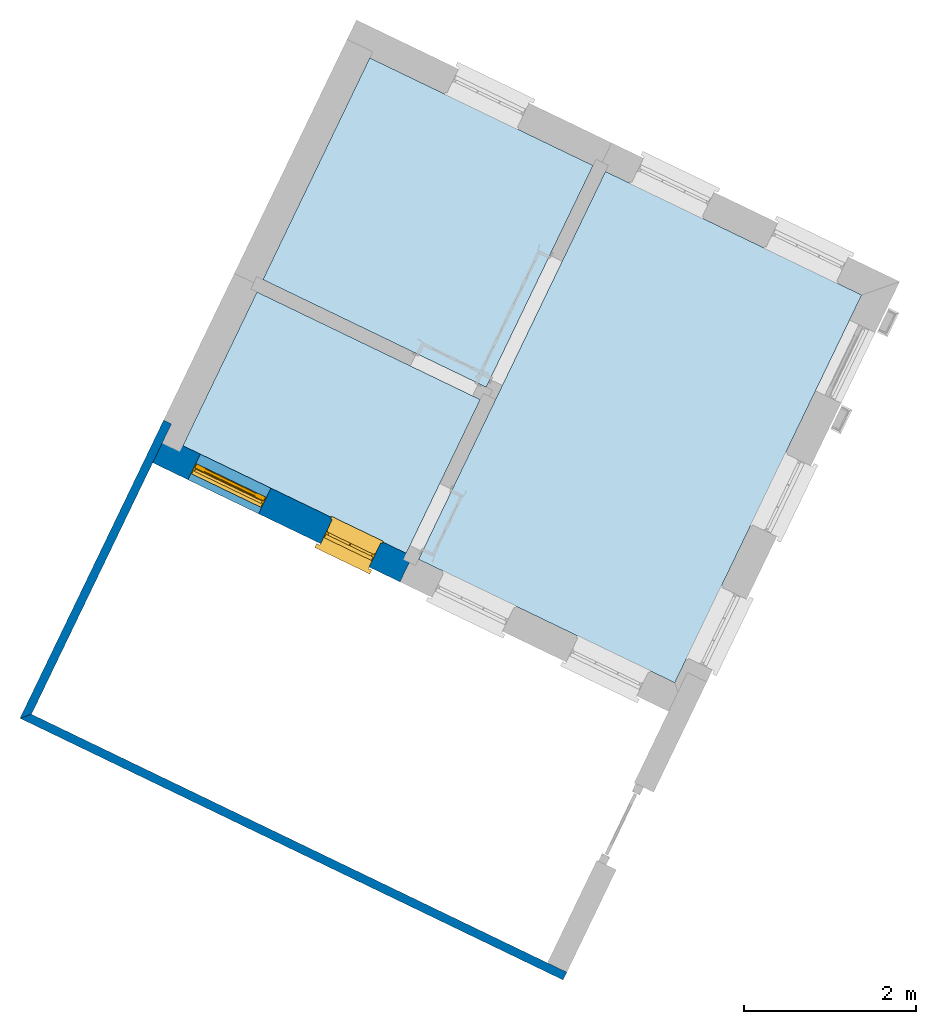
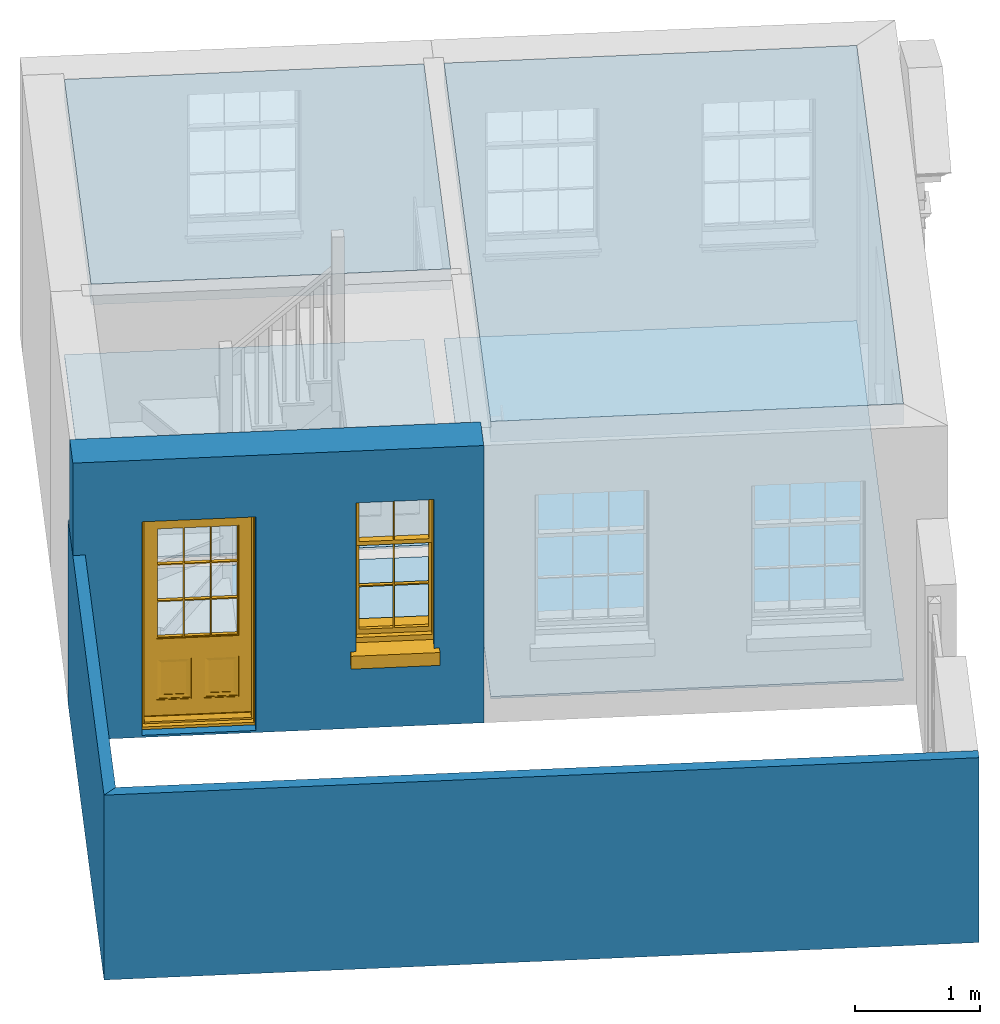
# One storey, part 1 of 5: 5 slabs, 3 walls, 1 door, 1 window, 2 openings.
"""IFC4 building model written with IfcOpenShell, lengths in metres."""

from ifc_helpers import new_model, si_unit, frame, origin, origin_with_axes, place, context, subcontext, project, spatial, polyline, outline, extrude, faceted_brep, source, transform, mapped, material, layer, layer_set, layer_usage, type_object, type_shapes, element, fill, save


model = new_model("IFC4")

# Units and contexts
model_context = context("Model", 3, world=origin_with_axes())
body_context = subcontext(model_context, "Body", "Model", "MODEL_VIEW")
ifc_project = project(units=[si_unit("PLANEANGLEUNIT", "RADIAN"), si_unit("MASSUNIT", "GRAM", prefix="KILO"), si_unit("FORCEUNIT", "NEWTON", prefix="KILO"), si_unit("LENGTHUNIT", "METRE"), si_unit("AREAUNIT", "SQUARE_METRE"), si_unit("VOLUMEUNIT", "CUBIC_METRE")], contexts=[model_context, model_context])

# Sites, building, storey
site_1_placement = place(None, origin_with_axes())
site_1 = spatial("IfcSite", under=ifc_project, at=site_1_placement, Name="Tamar")
site_2_placement = place(site_1_placement, origin_with_axes())
site_2 = spatial("IfcSite", under=site_1, at=site_2_placement, Name="Site plot-2", CompositionType="ELEMENT")
building_placement = place(None, origin_with_axes())
building = spatial("IfcBuilding", under=site_2, at=building_placement, Name="Building plot-2", CompositionType="ELEMENT")
storey_placement = place(None, frame((0.0, 0.0, 26.0), z_axis=(0.0, 0.0, 1.0), x_axis=(1.0, 0.0, 0.0)))
storey = spatial("IfcBuildingStorey", under=building, at=storey_placement, Name="plot-2 0", CompositionType="ELEMENT", Elevation=26.0)

# Slabs
slab_1_placement = place(storey_placement, frame((229.993782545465, 295.848818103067, 2.5)))
element("IfcSlab", 1, at=slab_1_placement, inside=storey, Name="My Slab", ObjectType="Slab", PredefinedType="FLOOR", context=body_context, shape_type="SweptSolid", body=[
    extrude(outline(polyline([(0.0, 0.0), (-1.24025928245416, -2.57371723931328), (1.35209378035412, -3.82295701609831), (2.59235306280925, -1.24923977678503), (0.0, 0.0)])), origin_with_axes(), (0.0, 0.0, 1.0), 0.2),
])
slab_2_placement = place(storey_placement, frame((229.993782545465, 295.848818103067, 0.0)))
element("IfcSlab", 2, at=slab_2_placement, inside=storey, Name="My Slab", ObjectType="Slab", PredefinedType="FLOOR", context=body_context, shape_type="SweptSolid", body=[
    extrude(outline(polyline([(0.0, 0.0), (-1.24025928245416, -2.57371723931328), (1.35209378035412, -3.82295701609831), (2.59235306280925, -1.24923977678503), (0.0, 0.0)])), origin_with_axes(), (0.0, 0.0, 1.0), 0.02),
])
slab_3_placement = place(storey_placement, frame((230.416383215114, 290.097028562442, 0.0)))
element("IfcSlab", 3, at=slab_3_placement, inside=storey, Name="My Slab", ObjectType="Slab", PredefinedType="FLOOR", context=body_context, shape_type="SweptSolid", body=[
    extrude(outline(polyline([(0.0, 0.0), (0.860034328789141, 1.78469551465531), (-1.7323187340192, 3.0339352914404), (-2.59235306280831, 1.24923977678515), (0.0, 0.0)])), origin_with_axes(), (0.0, 0.0, 1.0), 0.02),
])
slab_4_placement = place(storey_placement, frame((235.705211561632, 293.09651386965, 2.5)))
element("IfcSlab", 4, at=slab_4_placement, inside=storey, Name="My Slab", ObjectType="Slab", PredefinedType="FLOOR", context=body_context, shape_type="SweptSolid", body=[
    extrude(outline(polyline([(0.0, 0.0), (-2.97493894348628, 1.43360567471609), (-5.1446913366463, -3.0689440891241), (-2.16975239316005, -4.50254976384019), (0.0, 0.0)])), origin_with_axes(), (0.0, 0.0, 1.0), 0.2),
])
slab_5_placement = place(storey_placement, frame((235.705211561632, 293.09651386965, 0.0)))
element("IfcSlab", 5, at=slab_5_placement, inside=storey, Name="My Slab", ObjectType="Slab", PredefinedType="FLOOR", context=body_context, shape_type="SweptSolid", body=[
    extrude(outline(polyline([(0.0, 0.0), (-2.97493894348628, 1.43360567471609), (-5.1446913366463, -3.0689440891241), (-2.16975239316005, -4.50254976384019), (0.0, 0.0)])), origin_with_axes(), (0.0, 0.0, 1.0), 0.02),
])

# Wall, openings, door, window
ifc_material_1 = material(Name="Masonry")
ifc_layer_1 = layer(ifc_material_1, 0.33, ventilated=False)
ifc_layer_set_1 = layer_set([ifc_layer_1], Name="exterior_0.08_0.25")
ifc_layer_usage_1 = layer_usage(ifc_layer_set_1, "AXIS2", "POSITIVE", -0.25)
wall_type_1 = type_object("IfcWallType", Name="exterior_0.08_0.25", PredefinedType="SOLIDWALL", material=ifc_layer_set_1)
wall_1_placement = place(storey_placement, frame((227.717232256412, 291.308929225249, 0.0), z_axis=(0.0, 0.0, 1.0), x_axis=(0.900856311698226, -0.434117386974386, 0.0)))
wall_1 = element("IfcWall", 6, at=wall_1_placement, inside=storey, type_object=wall_type_1, material=ifc_layer_usage_1, Name="exterior", context=body_context, shape_type="SweptSolid", body=[
    extrude(outline(polyline([(-0.250000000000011, 0.0800000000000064), (-0.250000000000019, -0.250000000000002), (3.03765432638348, -0.249999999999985), (3.03765432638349, 0.0800000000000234), (-0.250000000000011, 0.0800000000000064)])), origin_with_axes(), (0.0, 0.0, 1.0), 2.7),
])
opening_1_placement = place(wall_1_placement, frame((0.304413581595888, 0.0, 0.0199999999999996)))
opening_1 = element("IfcOpeningElement", 7, at=opening_1_placement, cuts=wall_1, Name="My Opening", ObjectType="Opening", context=body_context, shape_type="SweptSolid", body=[
    extrude(outline(polyline([(0.0, -0.269999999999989), (0.909999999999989, -0.27), (0.909999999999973, 1.10000000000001), (-1.60982338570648e-14, 1.10000000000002), (0.0, -0.269999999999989)])), origin_with_axes(), (0.0, 0.0, 1.0), 2.08),
])
opening_2_placement = place(wall_1_placement, frame((2.01441358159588, 0.0, 0.75)))
opening_2 = element("IfcOpeningElement", 8, at=opening_2_placement, cuts=wall_1, Name="My Opening", ObjectType="Opening", context=body_context, shape_type="SweptSolid", body=[
    extrude(outline(polyline([(0.0, -0.269999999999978), (0.625000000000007, -0.269999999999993), (0.624999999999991, 1.10000000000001), (-1.64313007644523e-14, 1.10000000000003), (0.0, -0.269999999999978)])), origin_with_axes(), (0.0, 0.0, 1.0), 1.445),
])
door_type = type_object("IfcDoorType", Name="door_panelled", OperationType="SINGLE_SWING_LEFT", PredefinedType="NOTDEFINED")
shared_shape_1 = source(origin(), body_context, "Body", "Brep", [
    faceted_brep([(0.545, 0.195, 0.265), (0.745, 0.195, 0.265), (0.745, 0.2, 0.265), (0.545, 0.2, 0.265), (0.745, 0.2, 0.58), (0.545, 0.2, 0.58), (0.545, 0.195, 0.58), (0.515, 0.19, 0.235), (0.775, 0.19, 0.235), (0.745, 0.195, 0.58), (0.515, 0.19, 0.61), (0.515, 0.185, 0.235), (0.775, 0.185, 0.235), (0.775, 0.19, 0.61), (0.515, 0.185, 0.61), (0.785, 0.185, 0.225), (0.505, 0.185, 0.225), (0.775, 0.185, 0.61), (0.505, 0.185, 0.62), (0.785, 0.185, 0.62), (0.505, 0.18, 0.225), (0.785, 0.18, 0.225), (0.505, 0.18, 0.62), (0.785, 0.18, 0.62), (0.883, 0.18, 0.075), (0.898, 0.18, 0.075), (0.405, 0.18, 0.62), (0.405, 0.18, 0.225), (0.027, 0.18, 0.075), (0.785, 0.18, 0.82), (0.125, 0.18, 0.82), (0.405, 0.185, 0.62), (0.405, 0.185, 0.225), (0.898, 0.18, 2.068), (0.027, 0.17, 0.075), (0.883, 0.17, 0.075), (0.125, 0.18, 0.225), (0.012, 0.18, 0.075), (0.785, 0.19, 0.82), (0.125, 0.19, 0.82), (0.125, 0.18, 0.62), (0.125, 0.185, 0.62), (0.395, 0.185, 0.61), (0.395, 0.185, 0.235), (0.125, 0.185, 0.225), (0.785, 0.18, 1.895), (0.027, 0.14, 0.045), (0.883, 0.14, 0.045), (0.558333, 0.19, 0.83), (0.351667, 0.19, 0.83), (0.125, 0.18, 1.895), (0.125, 0.19, 1.895), (0.785, 0.19, 1.895), (0.012, 0.18, 2.068), (0.135, 0.185, 0.61), (0.395, 0.19, 0.61), (0.395, 0.19, 0.235), (0.135, 0.185, 0.235), (0.027, 0.14, 0.027), (0.883, 0.14, 0.027), (0.568333, 0.19, 0.83), (0.558333, 0.22, 0.83), (0.351667, 0.22, 0.83), (0.341667, 0.19, 0.83), (0.135, 0.19, 1.185), (0.135, 0.19, 1.53), (0.775, 0.19, 1.53), (0.775, 0.19, 1.185), (0.135, 0.19, 0.61), (0.365, 0.195, 0.58), (0.365, 0.195, 0.265), (0.135, 0.19, 0.235), (0.568333, 0.19, 1.175), (0.558333, 0.19, 1.175), (0.775, 0.19, 0.83), (0.558333, 0.22, 1.175), (0.785, 0.22, 0.82), (0.125, 0.22, 0.82), (0.351667, 0.22, 1.175), (0.351667, 0.19, 1.175), (0.341667, 0.19, 1.175), (0.135, 0.19, 0.83), (0.135, 0.19, 1.175), (0.135, 0.22, 1.185), (0.135, 0.22, 1.53), (0.135, 0.19, 1.54), (0.351667, 0.19, 1.885), (0.558333, 0.19, 1.885), (0.775, 0.22, 1.53), (0.775, 0.22, 1.185), (0.775, 0.19, 1.175), (0.775, 0.19, 1.54), (0.165, 0.195, 0.58), (0.365, 0.2, 0.58), (0.365, 0.2, 0.265), (0.165, 0.195, 0.265), (0.568333, 0.22, 0.83), (0.568333, 0.22, 1.175), (0.568333, 0.19, 1.185), (0.558333, 0.19, 1.185), (0.775, 0.22, 0.83), (0.785, 0.23, 0.82), (0.125, 0.23, 0.82), (0.341667, 0.22, 0.83), (0.341667, 0.22, 1.175), (0.351667, 0.19, 1.185), (0.341667, 0.19, 1.185), (0.135, 0.22, 0.83), (0.341667, 0.22, 1.185), (0.125, 0.22, 1.895), (0.341667, 0.22, 1.53), (0.341667, 0.19, 1.53), (0.135, 0.19, 1.885), (0.341667, 0.19, 1.54), (0.341667, 0.19, 1.885), (0.558333, 0.22, 1.885), (0.351667, 0.22, 1.885), (0.568333, 0.19, 1.885), (0.785, 0.22, 1.895), (0.568333, 0.22, 1.185), (0.568333, 0.19, 1.53), (0.568333, 0.22, 1.53), (0.568333, 0.19, 1.54), (0.775, 0.19, 1.885), (0.165, 0.2, 0.58), (0.165, 0.2, 0.265), (0.775, 0.22, 1.175), (0.558333, 0.19, 1.53), (0.351667, 0.22, 1.185), (0.558333, 0.22, 1.185), (0.505, 0.23, 0.62), (0.405, 0.23, 0.62), (0.125, 0.23, 1.895), (0.785, 0.23, 1.895), (0.351667, 0.19, 1.53), (0.135, 0.22, 1.175), (0.135, 0.22, 1.54), (0.341667, 0.22, 1.54), (0.135, 0.22, 1.885), (0.351667, 0.19, 1.54), (0.558333, 0.22, 1.54), (0.558333, 0.19, 1.54), (0.351667, 0.22, 1.54), (0.775, 0.22, 1.54), (0.568333, 0.22, 1.54), (0.775, 0.22, 1.885), (0.558333, 0.22, 1.53), (0.405, 0.23, 0.225), (0.505, 0.23, 0.225), (0.125, 0.23, 0.62), (0.785, 0.23, 0.62), (0.012, 0.23, 2.068), (0.898, 0.23, 2.068), (0.351667, 0.22, 1.53), (0.341667, 0.22, 1.885), (0.568333, 0.22, 1.885), (0.405, 0.225, 0.225), (0.405, 0.225, 0.62), (0.505, 0.225, 0.62), (0.505, 0.225, 0.225), (0.898, 0.23, 0.027), (0.012, 0.23, 0.027), (0.125, 0.225, 0.62), (0.785, 0.225, 0.62), (0.395, 0.225, 0.235), (0.395, 0.225, 0.61), (0.125, 0.23, 0.225), (0.125, 0.225, 0.225), (0.515, 0.225, 0.61), (0.515, 0.225, 0.235), (0.785, 0.23, 0.225), (0.785, 0.225, 0.225), (0.135, 0.225, 0.61), (0.775, 0.225, 0.61), (0.135, 0.225, 0.235), (0.395, 0.22, 0.235), (0.395, 0.22, 0.61), (0.515, 0.22, 0.61), (0.515, 0.22, 0.235), (0.775, 0.225, 0.235), (0.135, 0.22, 0.61), (0.775, 0.22, 0.61), (0.135, 0.22, 0.235), (0.365, 0.215, 0.265), (0.365, 0.215, 0.58), (0.545, 0.215, 0.58), (0.545, 0.215, 0.265), (0.775, 0.22, 0.235), (0.165, 0.215, 0.58), (0.745, 0.215, 0.58), (0.165, 0.215, 0.265), (0.365, 0.21, 0.58), (0.365, 0.21, 0.265), (0.545, 0.21, 0.58), (0.545, 0.21, 0.265), (0.745, 0.215, 0.265), (0.165, 0.21, 0.58), (0.745, 0.21, 0.58), (0.165, 0.21, 0.265), (0.745, 0.21, 0.265), (0.885, 0.178, 0.025), (0.025, 0.178, 0.025), (0.025, 0.15, 0.025), (0.885, 0.15, 0.025), (0.9, 0.23, 0.025), (0.01, 0.23, 0.025), (0.9, 0.178, 0.025), (0.91, 0.23, 0.0), (0.0, 0.23, 0.0), (0.01, 0.178, 0.025), (0.9, 0.178, 2.07), (0.9, 0.23, 2.07), (0.885, 0.178, 2.055), (0.91, 0.23, 2.08), (0.01, 0.23, 2.07), (0.0, 0.23, 2.08), (0.01, 0.178, 2.07), (0.025, 0.178, 2.055), (0.0, 0.1, 2.08), (0.91, 0.1, 2.08), (0.01, 0.1, 2.07), (0.9, 0.1, 2.07), (0.01, 0.15, 2.07), (0.9, 0.15, 2.07), (0.0, 0.1, 0.0), (0.91, 0.1, 0.0), (0.01, 0.1, 0.025), (0.9, 0.1, 0.025), (0.01, 0.15, 0.025), (0.025, 0.15, 2.055), (0.9, 0.15, 0.025), (0.885, 0.15, 2.055), (0.898, 0.18, 0.027), (0.012, 0.18, 0.027), (0.883, 0.18, 0.027), (0.027, 0.18, 0.027)], [[[0, 1, 2, 3]], [[2, 4, 5, 3]], [[0, 3, 5, 6]], [[1, 0, 7, 8]], [[9, 4, 2, 1]], [[9, 6, 5, 4]], [[0, 6, 10, 7]], [[8, 7, 11, 12]], [[8, 13, 9, 1]], [[13, 10, 6, 9]], [[7, 10, 14, 11]], [[15, 12, 11, 16]], [[12, 17, 13, 8]], [[17, 14, 10, 13]], [[18, 16, 11, 14]], [[15, 19, 17, 12]], [[15, 16, 20, 21]], [[14, 17, 19, 18]], [[16, 18, 22, 20]], [[21, 23, 19, 15]], [[24, 25, 21, 20]], [[23, 22, 18, 19]], [[20, 22, 26, 27]], [[23, 21, 25]], [[28, 24, 20, 27]], [[22, 23, 29]], [[29, 30, 26, 22]], [[27, 26, 31, 32]], [[23, 25, 33, 29]], [[34, 35, 24, 28]], [[28, 27, 36, 37]], [[38, 39, 30, 29]], [[26, 30, 40]], [[26, 40, 41, 31]], [[42, 43, 32, 31]], [[32, 44, 36, 27]], [[33, 45, 29]], [[46, 47, 35, 34]], [[36, 40, 37]], [[39, 38, 48, 49]], [[50, 30, 39, 51]], [[29, 45, 52, 38]], [[53, 37, 40, 30]], [[44, 41, 40, 36]], [[31, 41, 54, 42]], [[43, 42, 55, 56]], [[57, 44, 32, 43]], [[50, 45, 33, 53]], [[47, 46, 58, 59]], [[60, 48, 38]], [[49, 48, 61, 62]], [[49, 63, 39]], [[50, 53, 30]], [[51, 39, 64, 65]], [[45, 50, 51, 52]], [[66, 67, 38, 52]], [[57, 54, 41, 44]], [[42, 54, 68, 55]], [[56, 55, 69, 70]], [[56, 71, 57, 43]], [[60, 72, 73, 48]], [[60, 38, 74]], [[48, 73, 75, 61]], [[76, 77, 62, 61]], [[62, 78, 79, 49]], [[49, 79, 80, 63]], [[63, 81, 39]], [[82, 64, 39]], [[65, 64, 83, 84]], [[85, 51, 65]], [[52, 51, 86, 87]], [[88, 89, 67, 66]], [[90, 38, 67]], [[91, 66, 52]], [[71, 68, 54, 57]], [[55, 68, 92, 69]], [[69, 93, 94, 70]], [[70, 95, 71, 56]], [[96, 97, 72, 60]], [[73, 72, 98, 99]], [[74, 38, 90]], [[100, 96, 60, 74]], [[75, 73, 79, 78]], [[61, 75, 97, 96]], [[101, 102, 77, 76]], [[77, 103, 62]], [[96, 76, 61]], [[103, 104, 78, 62]], [[80, 79, 105, 106]], [[63, 80, 104, 103]], [[81, 63, 103, 107]], [[81, 82, 39]], [[106, 64, 82, 80]], [[106, 108, 83, 64]], [[84, 83, 77, 109]], [[110, 111, 65, 84]], [[112, 51, 85]], [[113, 85, 65, 111]], [[114, 86, 51]], [[115, 87, 86, 116]], [[117, 52, 87]], [[118, 76, 89, 88]], [[119, 98, 67, 89]], [[120, 121, 88, 66]], [[67, 98, 72, 90]], [[91, 122, 120, 66]], [[91, 52, 123]], [[95, 92, 68, 71]], [[69, 92, 124, 93]], [[94, 93, 124, 125]], [[94, 125, 95, 70]], [[72, 97, 126, 90]], [[127, 99, 98, 120]], [[99, 105, 79, 73]], [[74, 90, 126, 100]], [[96, 100, 76]], [[128, 129, 75, 78]], [[97, 75, 129, 119]], [[130, 131, 102, 101]], [[109, 77, 102, 132]], [[133, 101, 76, 118]], [[77, 107, 103]], [[78, 104, 108, 128]], [[111, 106, 105, 134]], [[104, 80, 82, 135]], [[107, 135, 82, 81]], [[110, 108, 106, 111]], [[104, 135, 83, 108]], [[83, 135, 77]], [[136, 84, 109]], [[110, 84, 136, 137]], [[114, 51, 112]], [[85, 136, 138, 112]], [[113, 137, 136, 85]], [[111, 134, 139, 113]], [[86, 114, 113, 139]], [[140, 141, 87, 115]], [[139, 142, 116, 86]], [[109, 118, 115, 116]], [[117, 123, 52]], [[117, 87, 141, 122]], [[126, 89, 76]], [[143, 118, 88]], [[120, 98, 119, 121]], [[119, 89, 126, 97]], [[144, 143, 88, 121]], [[144, 122, 91, 143]], [[127, 120, 122, 141]], [[143, 91, 123, 145]], [[124, 92, 95, 125]], [[146, 129, 99, 127]], [[99, 129, 128, 105]], [[100, 126, 76]], [[121, 119, 129, 146]], [[147, 131, 130, 148]], [[131, 149, 102]], [[130, 101, 150]], [[102, 151, 132]], [[118, 109, 132, 133]], [[101, 133, 152]], [[107, 77, 135]], [[153, 128, 108, 110]], [[134, 105, 128, 153]], [[109, 138, 136]], [[153, 110, 137, 142]], [[154, 114, 112, 138]], [[137, 113, 114, 154]], [[141, 139, 134, 127]], [[141, 140, 142, 139]], [[144, 140, 115, 155]], [[142, 137, 154, 116]], [[155, 115, 118]], [[116, 154, 109]], [[117, 155, 145, 123]], [[122, 144, 155, 117]], [[143, 145, 118]], [[121, 146, 140, 144]], [[146, 127, 134, 153]], [[156, 157, 131, 147]], [[148, 130, 158, 159]], [[148, 160, 161, 147]], [[157, 162, 149, 131]], [[161, 151, 102, 149]], [[101, 152, 160, 150]], [[163, 158, 130, 150]], [[151, 152, 133, 132]], [[154, 138, 109]], [[142, 140, 146, 153]], [[145, 155, 118]], [[157, 156, 164, 165]], [[147, 166, 167, 156]], [[168, 169, 159, 158]], [[170, 148, 159, 171]], [[148, 170, 160]], [[166, 147, 161]], [[172, 162, 157, 165]], [[166, 149, 162, 167]], [[166, 161, 149]], [[150, 160, 170]], [[163, 173, 168, 158]], [[171, 163, 150, 170]], [[174, 164, 156, 167]], [[175, 176, 165, 164]], [[169, 168, 177, 178]], [[171, 159, 169, 179]], [[167, 162, 172, 174]], [[176, 180, 172, 165]], [[179, 173, 163, 171]], [[181, 177, 168, 173]], [[164, 174, 182, 175]], [[183, 184, 176, 175]], [[178, 177, 185, 186]], [[179, 169, 178, 187]], [[174, 172, 180, 182]], [[184, 188, 180, 176]], [[187, 181, 173, 179]], [[189, 185, 177, 181]], [[175, 182, 190, 183]], [[191, 184, 183, 192]], [[185, 193, 194, 186]], [[187, 178, 186, 195]], [[182, 180, 188, 190]], [[191, 196, 188, 184]], [[195, 189, 181, 187]], [[197, 193, 185, 189]], [[183, 190, 198, 192]], [[198, 196, 191, 192]], [[194, 193, 197, 199]], [[195, 186, 194, 199]], [[188, 196, 198, 190]], [[197, 189, 195, 199]], [[200, 201, 202, 203]], [[201, 200, 204, 205]], [[206, 204, 200]], [[204, 207, 208, 205]], [[209, 201, 205]], [[210, 211, 204, 206]], [[206, 200, 212, 210]], [[211, 213, 207, 204]], [[214, 205, 208, 215]], [[216, 217, 201, 209]], [[205, 214, 216, 209]], [[216, 214, 211, 210]], [[210, 212, 217, 216]], [[214, 215, 213, 211]], [[218, 219, 213, 215]], [[219, 218, 220, 221]], [[221, 220, 222, 223]], [[215, 208, 224, 218]], [[225, 224, 208, 207]], [[224, 226, 220, 218]], [[224, 225, 227, 226]], [[219, 225, 207, 213]], [[228, 222, 220, 226]], [[219, 221, 227, 225]], [[226, 227, 203, 202]], [[202, 229, 222, 228]], [[228, 226, 202]], [[227, 221, 223, 230]], [[230, 203, 227]], [[217, 229, 202, 201]], [[231, 223, 222, 229]], [[230, 223, 231, 203]], [[231, 229, 217, 212]], [[212, 200, 203, 231]], [[33, 152, 151, 53]], [[25, 160, 152, 33]], [[161, 37, 53, 151]], [[232, 160, 25]], [[161, 233, 37]], [[160, 232, 234]], [[24, 234, 232, 25]], [[233, 161, 235]], [[37, 233, 235, 28]], [[161, 160, 234, 235]], [[35, 47, 234, 24]], [[28, 235, 46, 34]], [[58, 235, 234, 59]], [[59, 234, 47]], [[58, 46, 235]]]),
])
type_shapes(door_type, [shared_shape_1])
door_placement = place(storey_placement, frame((227.874253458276, 290.933546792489, 0.0199999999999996), z_axis=(0.0, 0.0, 1.0), x_axis=(0.819779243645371, -0.395046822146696, 0.0)))
door = element("IfcDoor", 9, at=door_placement, inside=storey, type_object=door_type, Name="circulation sahn door", OverallHeight=2.08, OverallWidth=0.91, context=body_context, shape_type="MappedRepresentation", body=[
    mapped(shared_shape_1, transform((0.0, 0.0, 0.0), scale=1.0)),
])
fill(opening_1, door)
window_type = type_object("IfcWindowType", Name="sash_narrow_shorter", PartitioningType="DOUBLE_PANEL_HORIZONTAL", PredefinedType="NOTDEFINED")
shared_shape_2 = source(origin(), body_context, "Body", "Brep", [
    faceted_brep([(0.591875, 0.145, 0.999097), (0.591875, 0.145, 1.411875), (0.615, 0.145, 1.435), (0.033125, 0.145, 1.411875), (0.033125, 0.145, 0.999097), (0.01, 0.145, 1.435), (0.033125, 0.115, 1.411875), (0.01, 0.115, 1.435), (0.033125, 0.115, 0.999097), (0.591875, 0.115, 1.411875), (0.591875, 0.115, 0.999097), (0.615, 0.115, 1.435), (0.033125, 0.145, 0.960972), (0.01, 0.145, 0.960972), (0.033125, 0.145, 0.548195), (0.591875, 0.145, 0.960972), (0.591875, 0.145, 0.548195), (0.615, 0.145, 0.960972), (0.591875, 0.145, 0.538195), (0.591875, 0.145, 0.125417), (0.615, 0.145, 0.077167), (0.033125, 0.145, 0.125417), (0.033125, 0.145, 0.538195), (0.01, 0.145, 0.077167), (0.615, 0.115, 0.960972), (0.01, 0.115, 0.960972), (-0.0425, 0.0, 0.01), (-0.0425, -0.05, 0.001667), (0.0, 0.0, 0.01), (0.6675, 0.0, 0.01), (0.625, 0.0, 0.01), (0.6675, -0.05, 0.001667), (-0.02, 0.33, 0.077167), (0.0, 0.33, 0.077167), (-0.02, 0.36, 0.077167), (0.0, 0.19, 0.077167), (0.01, 0.19, 0.077167), (0.625, 0.19, 0.077167), (0.625, 0.33, 0.077167), (0.615, 0.19, 0.077167), (0.645, 0.33, 0.077167), (0.645, 0.36, 0.077167), (0.01, 0.145, 0.999097), (0.01, 0.175, 0.999097), (0.615, 0.145, 0.999097), (0.615, 0.175, 0.999097), (0.591875, 0.175, 0.125417), (0.591875, 0.175, 0.538195), (0.615, 0.175, 0.077167), (0.591875, 0.175, 0.548195), (0.591875, 0.175, 0.960972), (0.033125, 0.175, 0.125417), (0.01, 0.175, 0.077167), (0.033125, 0.175, 0.538195), (0.033125, 0.175, 0.960972), (0.033125, 0.175, 0.548195), (-0.02, 0.33, 0.052167), (-0.02, 0.36, 0.052167), (0.645, 0.36, 0.052167), (0.645, 0.33, 0.052167), (0.625, 0.33, 0.052167), (0.0, 0.33, 0.052167), (0.625, 0.1, 0.026667), (0.0, 0.1, 0.026667), (-0.0425, -0.05, -0.123333), (0.6675, -0.05, -0.123333), (-0.0425, 0.0, -0.123333), (0.6675, 0.0, -0.123333), (0.01, 0.19, 1.435), (0.615, 0.19, 1.435), (0.0, 0.19, 1.445), (0.625, 0.19, 1.445), (0.01, 0.1, 0.077167), (0.615, 0.1, 0.077167), (0.3175, 0.175, 0.548195), (0.3175, 0.145, 0.548195), (0.3175, 0.175, 0.538195), (0.3175, 0.175, 0.125417), (0.3075, 0.175, 0.125417), (0.3075, 0.175, 0.538195), (0.3075, 0.175, 0.548195), (0.3175, 0.175, 0.960972), (0.3075, 0.175, 0.960972), (0.3075, 0.145, 0.538195), (0.3075, 0.145, 0.125417), (0.3175, 0.145, 0.125417), (0.3175, 0.145, 0.538195), (0.3075, 0.145, 0.548195), (0.3075, 0.145, 0.960972), (0.3175, 0.145, 0.960972), (0.3175, 0.115, 1.411875), (0.3075, 0.115, 1.411875), (0.3075, 0.115, 0.999097), (0.3175, 0.115, 0.999097), (0.3175, 0.145, 0.999097), (0.3075, 0.145, 0.999097), (0.3075, 0.145, 1.411875), (0.3175, 0.145, 1.411875), (0.625, 0.1, 1.445), (0.615, 0.1, 1.435), (0.01, 0.1, 1.435), (0.0, 0.1, 1.445), (0.625, 0.0, 0.0), (0.0, 0.0, 0.0), (0.625, 0.33, 0.0), (0.0, 0.33, 0.0)], [[[0, 1, 2]], [[3, 4, 5]], [[6, 7, 8]], [[9, 10, 11]], [[12, 13, 14]], [[15, 16, 17]], [[18, 19, 20]], [[21, 22, 23]], [[24, 15, 17]], [[13, 12, 25]], [[26, 27, 28]], [[29, 30, 31]], [[32, 33, 34]], [[35, 36, 33]], [[37, 38, 39]], [[40, 41, 38]], [[42, 4, 43]], [[44, 45, 0]], [[46, 47, 48]], [[49, 50, 45]], [[51, 52, 53]], [[54, 55, 43]], [[38, 33, 36, 39]], [[41, 34, 33, 38]], [[56, 32, 34, 57]], [[57, 34, 41, 58]], [[58, 41, 40, 59]], [[57, 58, 60, 61]], [[52, 48, 39, 36]], [[62, 63, 28, 30]], [[27, 31, 30, 28]], [[27, 64, 65, 31]], [[66, 67, 65, 64]], [[2, 5, 68, 69]], [[68, 70, 71, 69]], [[20, 23, 72, 73]], [[73, 72, 63, 62]], [[16, 49, 74, 75]], [[76, 77, 78, 79]], [[80, 79, 53, 55]], [[81, 74, 80, 82]], [[76, 74, 49, 47]], [[83, 79, 78, 84]], [[22, 53, 79, 83]], [[85, 77, 76, 86]], [[87, 80, 55, 14]], [[88, 82, 80, 87]], [[75, 74, 81, 89]], [[86, 76, 47, 18]], [[86, 18, 16, 75]], [[86, 83, 84, 85]], [[87, 14, 22, 83]], [[89, 88, 87, 75]], [[90, 91, 92, 93]], [[94, 95, 96, 97]], [[91, 96, 95, 92]], [[93, 94, 97, 90]], [[74, 76, 79, 80]], [[75, 87, 83, 86]], [[84, 78, 51, 21]], [[6, 3, 96, 91]], [[90, 97, 1, 9]], [[19, 46, 77, 85]], [[26, 66, 64, 27]], [[29, 31, 65, 67]], [[25, 24, 93, 92]], [[11, 7, 91, 90]], [[77, 48, 52, 78]], [[43, 45, 81, 82]], [[45, 43, 95, 94]], [[5, 2, 97, 96]], [[24, 25, 88, 89]], [[42, 5, 4]], [[2, 44, 0]], [[49, 45, 48, 47]], [[52, 43, 55, 53]], [[14, 13, 23, 22]], [[20, 17, 16, 18]], [[24, 11, 10]], [[25, 8, 7]], [[8, 4, 3, 6]], [[9, 1, 0, 10]], [[15, 50, 49, 16]], [[18, 47, 46, 19]], [[21, 51, 53, 22]], [[14, 55, 54, 12]], [[44, 2, 69, 45]], [[68, 5, 42, 43]], [[36, 35, 70, 68]], [[39, 69, 71, 37]], [[62, 98, 99, 73]], [[63, 72, 100, 101]], [[8, 92, 95, 4]], [[93, 10, 0, 94]], [[82, 88, 12, 54]], [[17, 20, 73, 24]], [[72, 23, 13, 25]], [[52, 36, 68, 43]], [[69, 39, 48, 45]], [[11, 24, 73, 99]], [[7, 100, 72, 25]], [[84, 21, 23]], [[20, 19, 85]], [[20, 85, 84, 23]], [[24, 10, 93]], [[92, 8, 25]], [[90, 9, 11]], [[7, 6, 91]], [[96, 3, 5]], [[2, 1, 97]], [[11, 99, 100, 7]], [[98, 101, 100, 99]], [[82, 54, 43]], [[50, 81, 45]], [[15, 89, 81, 50]], [[77, 46, 48]], [[52, 51, 78]], [[89, 15, 24]], [[25, 12, 88]], [[43, 4, 95]], [[94, 0, 45]], [[71, 70, 101, 98]], [[70, 35, 63, 101]], [[98, 62, 37, 71]], [[102, 67, 66, 103]], [[60, 58, 59]], [[38, 60, 59, 40]], [[61, 56, 57]], [[32, 56, 61, 33]], [[61, 60, 104, 105]], [[62, 60, 38, 37]], [[102, 104, 60, 62]], [[33, 61, 63, 35]], [[61, 105, 103, 63]], [[104, 102, 103, 105]], [[28, 103, 66, 26]], [[63, 103, 28]], [[29, 67, 102, 30]], [[30, 102, 62]]]),
])
type_shapes(window_type, [shared_shape_2])
window_placement = place(storey_placement, frame((229.41471775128, 290.191206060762, 0.75), z_axis=(0.0, 0.0, 1.0), x_axis=(0.563035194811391, -0.271323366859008, 0.0)))
window = element("IfcWindow", 10, at=window_placement, inside=storey, type_object=window_type, Name="circulation sahn window", OverallHeight=1.445, OverallWidth=0.625, context=body_context, shape_type="MappedRepresentation", body=[
    mapped(shared_shape_2, transform((0.0, 0.0, 0.0), scale=1.0)),
])
fill(opening_2, window)

# Walls
ifc_material_2 = material(Name="Masonry")
ifc_layer_2 = layer(ifc_material_2, 0.1, ventilated=False)
ifc_layer_set_2 = layer_set([ifc_layer_2], Name="fence_-0.15_0.25")
ifc_layer_usage_2 = layer_usage(ifc_layer_set_2, "AXIS2", "POSITIVE", -0.25)
wall_type_2 = type_object("IfcWallType", Name="fence_-0.15_0.25", PredefinedType="SOLIDWALL", material=ifc_layer_set_2)
wall_2_placement = place(storey_placement, frame((227.717232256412, 291.308929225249, 0.0), z_axis=(0.0, 0.0, 1.0), x_axis=(-0.434117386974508, -0.900856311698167, 0.0)))
element("IfcWall", 11, at=wall_2_placement, inside=storey, type_object=wall_type_2, material=ifc_layer_usage_2, Name="fence", context=body_context, shape_type="SweptSolid", body=[
    extrude(outline(polyline([(-0.250000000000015, -0.14999999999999), (-0.25000000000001, -0.249999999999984), (3.59192238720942, -0.249999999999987), (3.49192238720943, -0.150000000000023), (-0.250000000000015, -0.14999999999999)])), origin_with_axes(), (0.0, 0.0, 1.0), 1.8),
])
wall_3_placement = place(storey_placement, frame((226.266445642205, 288.298337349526, 0.0), z_axis=(0.0, 0.0, 1.0), x_axis=(0.900856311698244, -0.434117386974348, 0.0)))
element("IfcWall", 12, at=wall_3_placement, inside=storey, type_object=wall_type_2, material=ifc_layer_usage_2, Name="fence", context=body_context, shape_type="SweptSolid", body=[
    extrude(outline(polyline([(-0.150000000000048, -0.149999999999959), (-0.250000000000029, -0.249999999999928), (6.74999999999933, -0.249999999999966), (6.74999999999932, -0.149999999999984), (-0.150000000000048, -0.149999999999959)])), origin_with_axes(), (0.0, 0.0, 1.0), 1.8),
])

save(model, "model.ifc")
